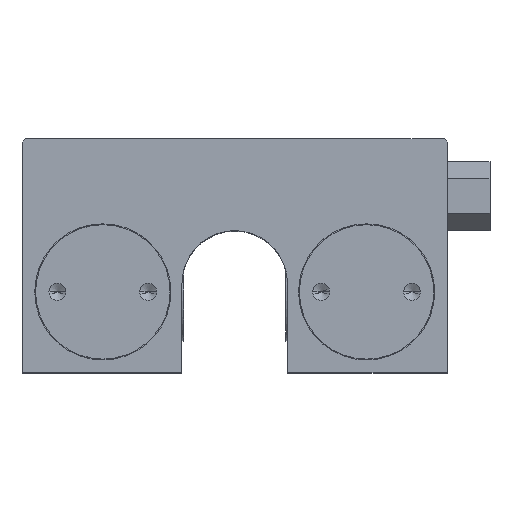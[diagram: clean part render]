
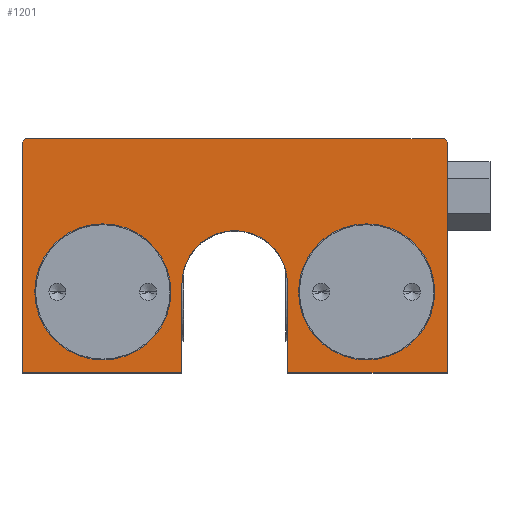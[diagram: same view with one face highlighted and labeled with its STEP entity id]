
A CAD part, top view. The second image highlights one B-rep face of the part: STEP entity #1201.
In plain terms, the highlighted planar face has unit normal (0, 0, 1).
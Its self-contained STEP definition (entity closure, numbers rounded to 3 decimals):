
#901 = VERTEX_POINT( '', #2656 );
#931 = VERTEX_POINT( '', #2690 );
#937 = EDGE_CURVE( '', #1723, #1091, #2696, .T. );
#1035 = EDGE_CURVE( '', #1091, #1323, #2817, .T. );
#1091 = VERTEX_POINT( '', #2882 );
#1099 = EDGE_CURVE( '', #1965, #2425, #2891, .T. );
#1143 = EDGE_CURVE( '', #2425, #1965, #2939, .T. );
#1201 = ADVANCED_FACE( '', ( #3004, #3005, #3006 ), #3007, .F. );
#1241 = EDGE_CURVE( '', #2409, #1791, #3052, .T. );
#1323 = VERTEX_POINT( '', #3153 );
#1381 = VERTEX_POINT( '', #3220 );
#1423 = EDGE_CURVE( '', #2095, #2013, #3266, .T. );
#1485 = EDGE_CURVE( '', #1381, #2253, #3335, .T. );
#1591 = VERTEX_POINT( '', #3447 );
#1681 = EDGE_CURVE( '', #2253, #1381, #3550, .T. );
#1719 = EDGE_CURVE( '', #1791, #931, #3590, .T. );
#1723 = VERTEX_POINT( '', #3594 );
#1791 = VERTEX_POINT( '', #3671 );
#1885 = EDGE_CURVE( '', #931, #1723, #3780, .T. );
#1965 = VERTEX_POINT( '', #3868 );
#2013 = VERTEX_POINT( '', #3919 );
#2095 = VERTEX_POINT( '', #4008 );
#2157 = EDGE_CURVE( '', #901, #2095, #4080, .T. );
#2253 = VERTEX_POINT( '', #4187 );
#2395 = EDGE_CURVE( '', #1591, #901, #4344, .T. );
#2409 = VERTEX_POINT( '', #4359 );
#2425 = VERTEX_POINT( '', #4377 );
#2591 = EDGE_CURVE( '', #1323, #1591, #4556, .T. );
#2615 = EDGE_CURVE( '', #2013, #2409, #4583, .T. );
#2656 = CARTESIAN_POINT( '', ( -25., 27.1, 18.5 ) );
#2690 = CARTESIAN_POINT( '', ( 6.2, 0., 18.5 ) );
#2696 = CIRCLE( '', #4671, 6.2 );
#2817 = LINE( '', #4810, #4811 );
#2882 = CARTESIAN_POINT( '', ( -6.2, 10.5, 18.5 ) );
#2891 = CIRCLE( '', #4944, 8. );
#2939 = CIRCLE( '', #5010, 8. );
#3004 = FACE_BOUND( '', #5097, .T. );
#3005 = FACE_BOUND( '', #5098, .T. );
#3006 = FACE_OUTER_BOUND( '', #5099, .T. );
#3007 = PLANE( '', #5100 );
#3052 = LINE( '', #5158, #5159 );
#3153 = CARTESIAN_POINT( '', ( -6.2, 0., 18.5 ) );
#3220 = CARTESIAN_POINT( '', ( 23.5, 9.5, 18.5 ) );
#3266 = LINE( '', #5467, #5468 );
#3335 = CIRCLE( '', #5566, 8. );
#3447 = CARTESIAN_POINT( '', ( -25., 0., 18.5 ) );
#3550 = CIRCLE( '', #5917, 8. );
#3590 = LINE( '', #5977, #5978 );
#3594 = CARTESIAN_POINT( '', ( 6.2, 10.5, 18.5 ) );
#3671 = CARTESIAN_POINT( '', ( 25., 0., 18.5 ) );
#3780 = LINE( '', #6272, #6273 );
#3868 = CARTESIAN_POINT( '', ( -7.5, 9.5, 18.5 ) );
#3919 = CARTESIAN_POINT( '', ( 24.6, 27.5, 18.5 ) );
#4008 = CARTESIAN_POINT( '', ( -24.6, 27.5, 18.5 ) );
#4080 = LINE( '', #6713, #6714 );
#4187 = CARTESIAN_POINT( '', ( 7.5, 9.5, 18.5 ) );
#4344 = LINE( '', #7063, #7064 );
#4359 = CARTESIAN_POINT( '', ( 25., 27.1, 18.5 ) );
#4377 = CARTESIAN_POINT( '', ( -23.5, 9.5, 18.5 ) );
#4556 = LINE( '', #7386, #7387 );
#4583 = LINE( '', #7424, #7425 );
#4671 = AXIS2_PLACEMENT_3D( '', #7514, #7515, #7516 );
#4810 = CARTESIAN_POINT( '', ( -6.2, 10.5, 18.5 ) );
#4811 = VECTOR( '', #7695, 1. );
#4944 = AXIS2_PLACEMENT_3D( '', #7784, #7785, #7786 );
#5010 = AXIS2_PLACEMENT_3D( '', #7830, #7831, #7832 );
#5097 = EDGE_LOOP( '', ( #7903, #7904 ) );
#5098 = EDGE_LOOP( '', ( #7905, #7906 ) );
#5099 = EDGE_LOOP( '', ( #7907, #7908, #7909, #7910, #7911, #7912, #7913, #7914, #7915, #7916 ) );
#5100 = AXIS2_PLACEMENT_3D( '', #7917, #7918, #7919 );
#5158 = CARTESIAN_POINT( '', ( 25., 27.1, 18.5 ) );
#5159 = VECTOR( '', #7969, 1. );
#5467 = CARTESIAN_POINT( '', ( -24.6, 27.5, 18.5 ) );
#5468 = VECTOR( '', #8266, 1. );
#5566 = AXIS2_PLACEMENT_3D( '', #8342, #8343, #8344 );
#5917 = AXIS2_PLACEMENT_3D( '', #8604, #8605, #8606 );
#5977 = CARTESIAN_POINT( '', ( 25., 0., 18.5 ) );
#5978 = VECTOR( '', #8640, 1. );
#6272 = CARTESIAN_POINT( '', ( 6.2, 0., 18.5 ) );
#6273 = VECTOR( '', #8880, 1. );
#6713 = CARTESIAN_POINT( '', ( -25., 27.1, 18.5 ) );
#6714 = VECTOR( '', #9174, 1. );
#7063 = CARTESIAN_POINT( '', ( -25., 0., 18.5 ) );
#7064 = VECTOR( '', #9451, 1. );
#7386 = CARTESIAN_POINT( '', ( -6.2, 0., 18.5 ) );
#7387 = VECTOR( '', #9661, 1. );
#7424 = CARTESIAN_POINT( '', ( 24.6, 27.5, 18.5 ) );
#7425 = VECTOR( '', #9690, 1. );
#7514 = CARTESIAN_POINT( '', ( 0., 10.5, 18.5 ) );
#7515 = DIRECTION( '', ( 0., 0., 1. ) );
#7516 = DIRECTION( '', ( 1., 0., 0. ) );
#7695 = DIRECTION( '', ( 0., -1., 0. ) );
#7784 = CARTESIAN_POINT( '', ( -15.5, 9.5, 18.5 ) );
#7785 = DIRECTION( '', ( 0., 0., -1. ) );
#7786 = DIRECTION( '', ( -1., 0., 0. ) );
#7830 = CARTESIAN_POINT( '', ( -15.5, 9.5, 18.5 ) );
#7831 = DIRECTION( '', ( 0., 0., -1. ) );
#7832 = DIRECTION( '', ( -1., 0., 0. ) );
#7903 = ORIENTED_EDGE( '', *, *, #1099, .T. );
#7904 = ORIENTED_EDGE( '', *, *, #1143, .T. );
#7905 = ORIENTED_EDGE( '', *, *, #1485, .T. );
#7906 = ORIENTED_EDGE( '', *, *, #1681, .T. );
#7907 = ORIENTED_EDGE( '', *, *, #1719, .F. );
#7908 = ORIENTED_EDGE( '', *, *, #1241, .F. );
#7909 = ORIENTED_EDGE( '', *, *, #2615, .F. );
#7910 = ORIENTED_EDGE( '', *, *, #1423, .F. );
#7911 = ORIENTED_EDGE( '', *, *, #2157, .F. );
#7912 = ORIENTED_EDGE( '', *, *, #2395, .F. );
#7913 = ORIENTED_EDGE( '', *, *, #2591, .F. );
#7914 = ORIENTED_EDGE( '', *, *, #1035, .F. );
#7915 = ORIENTED_EDGE( '', *, *, #937, .F. );
#7916 = ORIENTED_EDGE( '', *, *, #1885, .F. );
#7917 = CARTESIAN_POINT( '', ( 0., 0., 18.5 ) );
#7918 = DIRECTION( '', ( 0., 0., -1. ) );
#7919 = DIRECTION( '', ( -1., 0., 0. ) );
#7969 = DIRECTION( '', ( 0., -1., 0. ) );
#8266 = DIRECTION( '', ( 1., 0., 0. ) );
#8342 = CARTESIAN_POINT( '', ( 15.5, 9.5, 18.5 ) );
#8343 = DIRECTION( '', ( 0., 0., -1. ) );
#8344 = DIRECTION( '', ( -1., 0., 0. ) );
#8604 = CARTESIAN_POINT( '', ( 15.5, 9.5, 18.5 ) );
#8605 = DIRECTION( '', ( 0., 0., -1. ) );
#8606 = DIRECTION( '', ( -1., 0., 0. ) );
#8640 = DIRECTION( '', ( -1., 0., 0. ) );
#8880 = DIRECTION( '', ( 0., 1., 0. ) );
#9174 = DIRECTION( '', ( 0.707, 0.707, 0. ) );
#9451 = DIRECTION( '', ( 0., 1., 0. ) );
#9661 = DIRECTION( '', ( -1., 0., 0. ) );
#9690 = DIRECTION( '', ( 0.707, -0.707, 0. ) );
